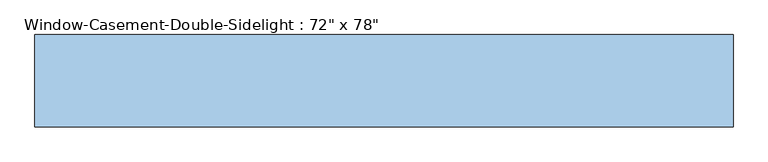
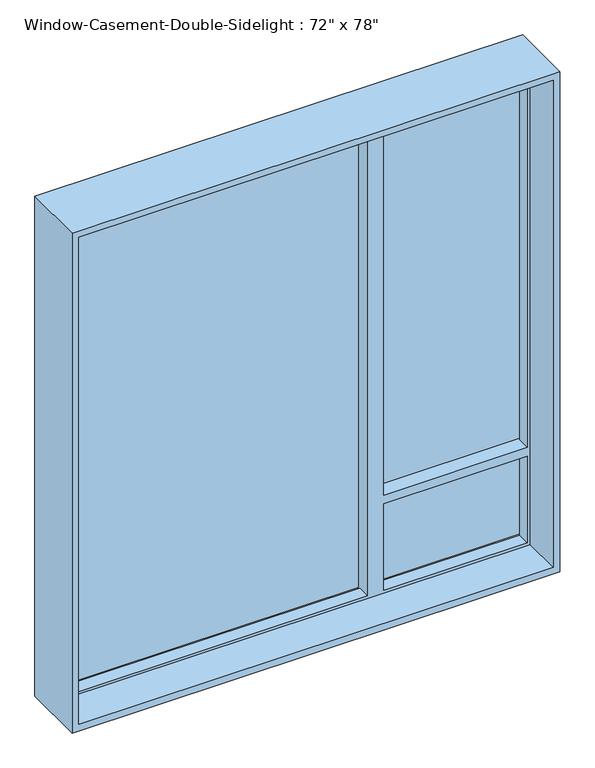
"""IFC4 building model written with IfcOpenShell, lengths in millimetres: window geometry."""

from ifc_helpers import new_model, si_unit, frame, origin, place, context, project, spatial, polyline, outline, extrude, faceted_brep, source, transform, mapped, element, save


def window_e558d9e9(model_context):
    return source(origin(), model_context, "Body", "SolidModel", [
        faceted_brep([(-889.0, 79.375, 2870.2), (-889.0, 120.65, 2870.2), (889.0, 120.65, 2870.2), (889.0, 79.375, 2870.2), (330.2, 79.375, 2870.2), (330.2, 117.475, 2870.2), (279.4, 117.475, 2870.2), (279.4, 79.375, 2870.2), (-878.8796875, 28.575, 2860.0796875), (-878.8796875, 79.375, 2860.0796875), (279.4, 79.375, 2860.0796875), (279.4, 28.575, 2860.0796875), (878.8796875, 79.375, 2860.0796875), (878.8796875, 28.575, 2860.0796875), (340.3203125, 28.575, 2860.0796875), (340.3203125, 79.375, 2860.0796875), (-889.0, -120.65, 2870.2), (-889.0, 28.575, 2870.2), (889.0, 28.575, 2870.2), (889.0, -120.65, 2870.2), (-914.4, 120.65, 2895.6), (-914.4, -120.65, 2895.6), (914.4, -120.65, 2895.6), (914.4, 120.65, 2895.6), (889.0, 120.65, 939.8), (889.0, 79.375, 939.8), (889.0, 79.375, 1292.8798438), (889.0, 117.475, 1292.8798438), (889.0, 117.475, 1328.4001563), (889.0, 79.375, 1328.4001563), (878.8796875, 79.375, 1328.4001563), (878.8796875, 28.575, 1328.4001563), (878.8796875, 79.375, 949.9203125), (878.8796875, 28.575, 949.9203125), (878.8796875, 28.575, 1292.8798438), (878.8796875, 79.375, 1292.8798438), (889.0, 28.575, 939.8), (889.0, -120.65, 939.8), (914.4, -120.65, 914.4), (914.4, 120.65, 914.4), (-889.0, 120.65, 939.8), (-889.0, 79.375, 939.8), (279.4, 79.375, 939.8), (279.4, 117.475, 939.8), (330.2, 117.475, 939.8), (330.2, 79.375, 939.8), (340.3203125, 79.375, 949.9203125), (340.3203125, 28.575, 949.9203125), (-878.8796875, 79.375, 949.9203125), (-878.8796875, 28.575, 949.9203125), (279.4, 28.575, 949.9203125), (279.4, 79.375, 949.9203125), (-889.0, 28.575, 939.8), (-889.0, -120.65, 939.8), (-914.4, -120.65, 914.4), (-914.4, 120.65, 914.4), (340.3203125, 79.375, 1328.4001563), (330.2, 79.375, 1328.4001563), (330.2, 79.375, 1292.8798438), (340.3203125, 79.375, 1292.8798438), (340.3203125, 28.575, 1328.4001563), (340.3203125, 28.575, 1292.8798438), (330.2, 117.475, 1328.4001563), (330.2, 117.475, 1292.8798438)], [[[0, 1, 2, 3, 4, 5, 6, 7]], [[8, 9, 10, 11]], [[12, 13, 14, 15]], [[16, 17, 18, 19]], [[20, 21, 22, 23]], [[3, 2, 24, 25, 26, 27, 28, 29]], [[13, 12, 30, 31]], [[32, 33, 34, 35]], [[19, 18, 36, 37]], [[23, 22, 38, 39]], [[25, 24, 40, 41, 42, 43, 44, 45]], [[33, 32, 46, 47]], [[48, 49, 50, 51]], [[37, 36, 52, 53]], [[39, 38, 54, 55]], [[1, 0, 41, 40]], [[12, 15, 56, 57, 4, 3, 29, 30]], [[46, 32, 35, 26, 25, 45, 58, 59]], [[41, 0, 7, 10, 9, 48, 51, 42]], [[9, 8, 49, 48]], [[17, 52, 36, 18], [13, 31, 60, 14], [33, 47, 61, 34], [49, 8, 11, 50]], [[17, 16, 53, 52]], [[22, 21, 54, 38], [16, 19, 37, 53]], [[21, 20, 55, 54]], [[20, 23, 39, 55], [2, 1, 40, 24]], [[43, 6, 5, 62, 28, 27, 63, 44]], [[6, 43, 42, 51, 50, 11, 10, 7]], [[15, 14, 60, 56]], [[47, 46, 59, 61]], [[5, 4, 57, 62]], [[45, 44, 63, 58]], [[63, 27, 26, 35, 34, 61, 59, 58]], [[28, 62, 57, 56, 60, 31, 30, 29]]]),
        extrude(outline(polyline([(889.0, 92.075), (889.0, 85.725), (330.2, 85.725), (330.2, 92.075), (889.0, 92.075)])), frame((0.0, 0.0, 1328.4001563), z_axis=(0.0, 0.0, 1.0), x_axis=(1.0, 0.0, 0.0)), (0.0, 0.0, 1.0), 1541.7998438),
        extrude(outline(polyline([(889.0, 104.775), (889.0, 98.425), (330.2, 98.425), (330.2, 104.775), (889.0, 104.775)])), frame((0.0, 0.0, 1328.4001563), z_axis=(0.0, 0.0, 1.0), x_axis=(1.0, 0.0, 0.0)), (0.0, 0.0, 1.0), 1541.7998438),
        extrude(outline(polyline([(279.4, 104.775), (279.4, 98.425), (-889.0, 98.425), (-889.0, 104.775), (279.4, 104.775)])), frame((0.0, 0.0, 949.9203125), z_axis=(0.0, 0.0, 1.0), x_axis=(1.0, 0.0, 0.0)), (0.0, 0.0, 1.0), 1920.2796875),
        extrude(outline(polyline([(279.4, 92.075), (279.4, 85.725), (-889.0, 85.725), (-889.0, 92.075), (279.4, 92.075)])), frame((0.0, 0.0, 949.9203125), z_axis=(0.0, 0.0, 1.0), x_axis=(1.0, 0.0, 0.0)), (0.0, 0.0, 1.0), 1920.2796875),
        extrude(outline(polyline([(889.0, 104.775), (330.2, 104.775), (330.2, 117.475), (889.0, 117.475), (889.0, 104.775)])), frame((0.0, 0.0, 949.9203125), z_axis=(0.0, 0.0, 1.0), x_axis=(1.0, 0.0, 0.0)), (0.0, 0.0, 1.0), 342.9595312),
        extrude(outline(polyline([(889.0, 92.075), (889.0, 85.725), (330.2, 85.725), (330.2, 92.075), (889.0, 92.075)])), frame((0.0, 0.0, 949.9203125), z_axis=(0.0, 0.0, 1.0), x_axis=(1.0, 0.0, 0.0)), (0.0, 0.0, 1.0), 342.9595312),
    ])


if __name__ == "__main__":
    model = new_model("IFC4")
    model_context = context("Model", 3, world=origin())
    ifc_project = project(units=[si_unit("LENGTHUNIT", "METRE", prefix="MILLI")], contexts=[model_context])
    site = spatial("IfcSite", under=ifc_project)
    building = spatial("IfcBuilding", under=site)
    placement = place(None, origin())
    window_shape = window_e558d9e9(model_context)
    element("IfcWindow", 1, ObjectType="Window-Casement-Double-Sidelight : 72\" x 78\"", at=placement, inside=building, context=model_context, shape_type="MappedRepresentation", body=[
        mapped(window_shape, transform((0.0, 0.0, 0.0), x_axis=(1.0, 0.0, 0.0), y_axis=(0.0, 1.0, 0.0), z_axis=(0.0, 0.0, 1.0))),
    ])
    save(model, "model.ifc")
